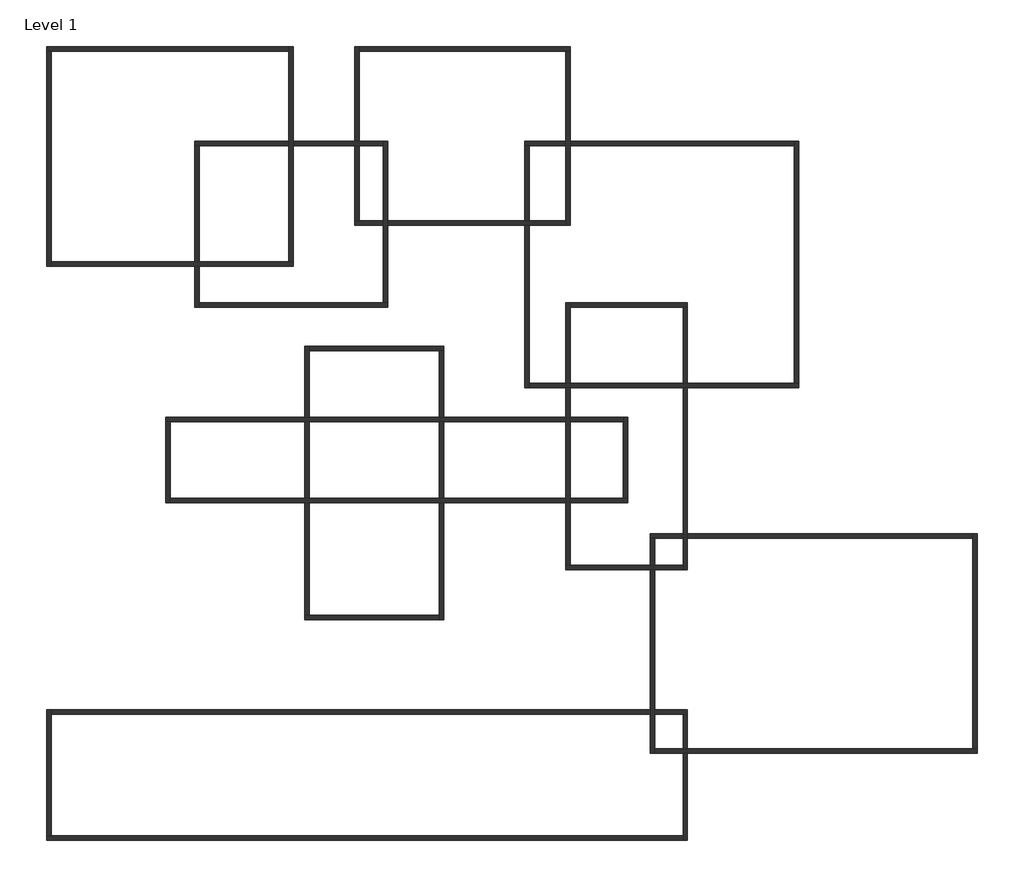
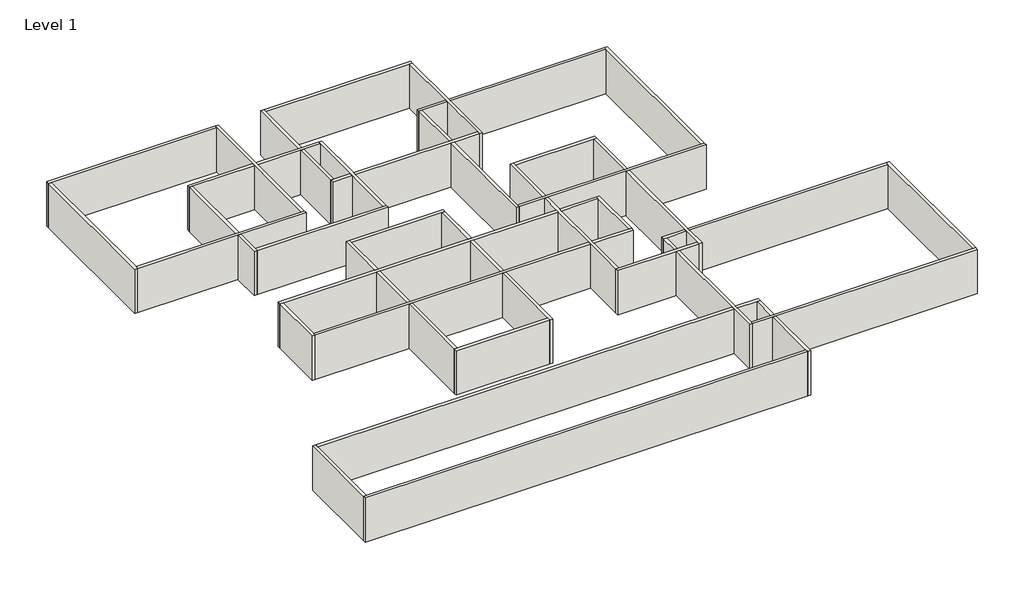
# One storey: 36 walls.
"""IFC4 building model written with IfcOpenShell, lengths in millimetres."""

from ifc_helpers import new_model, si_unit, origin, place, context, project, spatial, faceted_brep, element, save

model = new_model("IFC4")

# Units and contexts
model_context = context("Model", 3, world=origin())
ifc_project = project(units=[si_unit("LENGTHUNIT", "METRE", prefix="MILLI")], contexts=[model_context])

# Site, building, storey
site = spatial("IfcSite", under=ifc_project)
building = spatial("IfcBuilding", under=site)
storey = spatial("IfcBuildingStorey", under=building, Name="Level 1", Elevation=0.0)

# Walls
placement = place(None, origin())
element("IfcWall", 1, ObjectType="Generic - 8\"", at=placement, inside=storey, context=model_context, shape_type="Brep", body=[
    faceted_brep([(-6320.9988868, 19584.5440168, 0.0), (-6117.7988868, 19584.5440168, 0.0), (4651.8011132, 19584.5440168, 0.0), (4651.8011132, 19584.5440168, 3048.0), (-6117.7988868, 19584.5440168, 3048.0), (-6320.9988868, 19584.5440168, 3048.0), (-6320.9988868, 19787.7440168, 0.0), (-6320.9988868, 19787.7440168, 3048.0), (4651.8011132, 19787.7440168, 3048.0), (4651.8011132, 19787.7440168, 0.0)], [[[0, 1, 2, 3, 4, 5]], [[6, 7, 8, 9]], [[2, 1, 0, 6, 9]], [[5, 4, 3, 8, 7]], [[0, 5, 7, 6]], [[3, 2, 9, 8]]]),
])
element("IfcWall", 2, ObjectType="Generic - 8\"", at=placement, inside=storey, context=model_context, shape_type="Brep", body=[
    faceted_brep([(-6117.7988868, 9830.9440168, 0.0), (-6117.7988868, 10034.1440168, 0.0), (-6117.7988868, 19584.5440168, 0.0), (-6117.7988868, 19584.5440168, 3048.0), (-6117.7988868, 10034.1440168, 3048.0), (-6117.7988868, 9830.9440168, 3048.0), (-6320.9988868, 9830.9440168, 0.0), (-6320.9988868, 9830.9440168, 3048.0), (-6320.9988868, 19584.5440168, 3048.0), (-6320.9988868, 19584.5440168, 0.0)], [[[0, 1, 2, 3, 4, 5]], [[6, 7, 8, 9]], [[2, 1, 0, 6, 9]], [[5, 4, 3, 8, 7]], [[0, 5, 7, 6]], [[3, 2, 9, 8]]]),
])
element("IfcWall", 3, ObjectType="Generic - 8\"", at=placement, inside=storey, context=model_context, shape_type="Brep", body=[
    faceted_brep([(4855.0011132, 10034.1440168, 0.0), (4651.8011132, 10034.1440168, 0.0), (596.1923999, 10034.1440168, 0.0), (392.9923999, 10034.1440168, 0.0), (-6117.7988868, 10034.1440168, 0.0), (-6117.7988868, 10034.1440168, 3048.0), (392.9923999, 10034.1440168, 3048.0), (596.1923999, 10034.1440168, 3048.0), (4651.8011132, 10034.1440168, 3048.0), (4855.0011132, 10034.1440168, 3048.0), (4855.0011132, 9830.9440168, 0.0), (4855.0011132, 9830.9440168, 3048.0), (596.1923999, 9830.9440168, 3048.0), (392.9923999, 9830.9440168, 3048.0), (-6117.7988868, 9830.9440168, 3048.0), (-6117.7988868, 9830.9440168, 0.0), (392.9923999, 9830.9440168, 0.0), (596.1923999, 9830.9440168, 0.0)], [[[0, 1, 2, 3, 4, 5, 6, 7, 8, 9]], [[10, 11, 12, 13, 14, 15, 16, 17]], [[4, 3, 2, 1, 0, 10, 17, 16, 15]], [[9, 8, 7, 6, 5, 14, 13, 12, 11]], [[0, 9, 11, 10]], [[5, 4, 15, 14]]]),
])
element("IfcWall", 4, ObjectType="Generic - 8\"", at=placement, inside=storey, context=model_context, shape_type="Brep", body=[
    faceted_brep([(4651.8011132, 19787.7440168, 0.0), (4651.8011132, 19584.5440168, 0.0), (4651.8011132, 15503.5781482, 0.0), (4651.8011132, 15300.3781482, 0.0), (4651.8011132, 10034.1440168, 0.0), (4651.8011132, 10034.1440168, 3048.0), (4651.8011132, 15300.3781482, 3048.0), (4651.8011132, 15503.5781482, 3048.0), (4651.8011132, 19584.5440168, 3048.0), (4651.8011132, 19787.7440168, 3048.0), (4855.0011132, 19787.7440168, 0.0), (4855.0011132, 19787.7440168, 3048.0), (4855.0011132, 15503.5781482, 3048.0), (4855.0011132, 15300.3781482, 3048.0), (4855.0011132, 10034.1440168, 3048.0), (4855.0011132, 10034.1440168, 0.0), (4855.0011132, 15300.3781482, 0.0), (4855.0011132, 15503.5781482, 0.0)], [[[0, 1, 2, 3, 4, 5, 6, 7, 8, 9]], [[10, 11, 12, 13, 14, 15, 16, 17]], [[4, 3, 2, 1, 0, 10, 17, 16, 15]], [[9, 8, 7, 6, 5, 14, 13, 12, 11]], [[0, 9, 11, 10]], [[5, 4, 15, 14]]]),
])
element("IfcWall", 5, ObjectType="Generic - 8\"", at=placement, inside=storey, context=model_context, shape_type="Brep", body=[
    faceted_brep([(8927.3923999, 15300.3781482, 0.0), (8927.3923999, 15300.3781482, 3048.0), (7853.6972669, 15300.3781482, 3048.0), (7650.4972669, 15300.3781482, 3048.0), (4855.0011132, 15300.3781482, 3048.0), (4855.0011132, 15300.3781482, 0.0), (7650.4972669, 15300.3781482, 0.0), (7853.6972669, 15300.3781482, 0.0), (8927.3923999, 15503.5781482, 3048.0), (8927.3923999, 15503.5781482, 0.0), (7853.6972669, 15503.5781482, 0.0), (7650.4972669, 15503.5781482, 0.0), (4855.0011132, 15503.5781482, 0.0), (4855.0011132, 15503.5781482, 3048.0), (7650.4972669, 15503.5781482, 3048.0), (7853.6972669, 15503.5781482, 3048.0)], [[[0, 1, 2, 3, 4, 5, 6, 7]], [[8, 9, 10, 11, 12, 13, 14, 15]], [[9, 0, 7, 6, 5, 12, 11, 10]], [[1, 8, 15, 14, 13, 4, 3, 2]], [[1, 0, 9, 8]], [[5, 4, 13, 12]]]),
    faceted_brep([(392.9923999, 15300.3781482, 3048.0), (392.9923999, 15300.3781482, 0.0), (596.1923999, 15300.3781482, 0.0), (4651.8011132, 15300.3781482, 0.0), (4651.8011132, 15300.3781482, 3048.0), (596.1923999, 15300.3781482, 3048.0), (392.9923999, 15503.5781482, 0.0), (392.9923999, 15503.5781482, 3048.0), (4651.8011132, 15503.5781482, 3048.0), (4651.8011132, 15503.5781482, 0.0)], [[[0, 1, 2, 3, 4, 5]], [[6, 7, 8, 9]], [[1, 6, 9, 3, 2]], [[7, 0, 5, 4, 8]], [[1, 0, 7, 6]], [[4, 3, 9, 8]]]),
])
element("IfcWall", 6, ObjectType="Generic - 8\"", at=placement, inside=storey, context=model_context, shape_type="Brep", body=[
    faceted_brep([(596.1923999, 15300.3781482, 0.0), (596.1923999, 15300.3781482, 3048.0), (596.1923999, 10034.1440168, 3048.0), (596.1923999, 10034.1440168, 0.0), (392.9923999, 15300.3781482, 3048.0), (392.9923999, 15300.3781482, 0.0), (392.9923999, 10034.1440168, 0.0), (392.9923999, 10034.1440168, 3048.0)], [[[0, 1, 2, 3]], [[4, 5, 6, 7]], [[5, 0, 3, 6]], [[1, 4, 7, 2]], [[1, 0, 5, 4]], [[3, 2, 7, 6]]]),
    faceted_brep([(596.1923999, 7985.1781482, 3048.0), (596.1923999, 7985.1781482, 0.0), (596.1923999, 8188.3781482, 0.0), (596.1923999, 9830.9440168, 0.0), (596.1923999, 9830.9440168, 3048.0), (596.1923999, 8188.3781482, 3048.0), (392.9923999, 7985.1781482, 0.0), (392.9923999, 7985.1781482, 3048.0), (392.9923999, 9830.9440168, 3048.0), (392.9923999, 9830.9440168, 0.0)], [[[0, 1, 2, 3, 4, 5]], [[6, 7, 8, 9]], [[1, 6, 9, 3, 2]], [[7, 0, 5, 4, 8]], [[1, 0, 7, 6]], [[4, 3, 9, 8]]]),
])
element("IfcWall", 7, ObjectType="Generic - 8\"", at=placement, inside=storey, context=model_context, shape_type="Brep", body=[
    faceted_brep([(9130.5923999, 8188.3781482, 0.0), (8927.3923999, 8188.3781482, 0.0), (596.1923999, 8188.3781482, 0.0), (596.1923999, 8188.3781482, 3048.0), (8927.3923999, 8188.3781482, 3048.0), (9130.5923999, 8188.3781482, 3048.0), (9130.5923999, 7985.1781482, 0.0), (9130.5923999, 7985.1781482, 3048.0), (596.1923999, 7985.1781482, 3048.0), (596.1923999, 7985.1781482, 0.0)], [[[0, 1, 2, 3, 4, 5]], [[6, 7, 8, 9]], [[2, 1, 0, 6, 9]], [[5, 4, 3, 8, 7]], [[0, 5, 7, 6]], [[3, 2, 9, 8]]]),
])
element("IfcWall", 8, ObjectType="Generic - 8\"", at=placement, inside=storey, context=model_context, shape_type="Brep", body=[
    faceted_brep([(8927.3923999, 15503.5781482, 0.0), (8927.3923999, 15300.3781482, 0.0), (8927.3923999, 11890.8114082, 0.0), (8927.3923999, 11687.6114082, 0.0), (8927.3923999, 8188.3781482, 0.0), (8927.3923999, 8188.3781482, 3048.0), (8927.3923999, 11687.6114082, 3048.0), (8927.3923999, 11890.8114082, 3048.0), (8927.3923999, 15300.3781482, 3048.0), (8927.3923999, 15503.5781482, 3048.0), (9130.5923999, 15503.5781482, 0.0), (9130.5923999, 15503.5781482, 3048.0), (9130.5923999, 11890.8114082, 3048.0), (9130.5923999, 11687.6114082, 3048.0), (9130.5923999, 8188.3781482, 3048.0), (9130.5923999, 8188.3781482, 0.0), (9130.5923999, 11687.6114082, 0.0), (9130.5923999, 11890.8114082, 0.0)], [[[0, 1, 2, 3, 4, 5, 6, 7, 8, 9]], [[10, 11, 12, 13, 14, 15, 16, 17]], [[4, 3, 2, 1, 0, 10, 17, 16, 15]], [[9, 8, 7, 6, 5, 14, 13, 12, 11]], [[0, 9, 11, 10]], [[5, 4, 15, 14]]]),
])
element("IfcWall", 9, ObjectType="Generic - 8\"", at=placement, inside=storey, context=model_context, shape_type="Brep", body=[
    faceted_brep([(7650.4972669, 11687.6114082, 3048.0), (7650.4972669, 11687.6114082, 0.0), (8927.3923999, 11687.6114082, 0.0), (8927.3923999, 11687.6114082, 3048.0), (7650.4972669, 11890.8114082, 0.0), (7650.4972669, 11890.8114082, 3048.0), (7853.6972669, 11890.8114082, 3048.0), (8927.3923999, 11890.8114082, 3048.0), (8927.3923999, 11890.8114082, 0.0), (7853.6972669, 11890.8114082, 0.0)], [[[0, 1, 2, 3]], [[4, 5, 6, 7, 8, 9]], [[1, 4, 9, 8, 2]], [[5, 0, 3, 7, 6]], [[1, 0, 5, 4]], [[3, 2, 8, 7]]]),
    faceted_brep([(17209.9420036, 11687.6114082, 0.0), (17209.9420036, 11687.6114082, 3048.0), (15558.801553, 11687.6114082, 3048.0), (15355.601553, 11687.6114082, 3048.0), (9130.5923999, 11687.6114082, 3048.0), (9130.5923999, 11687.6114082, 0.0), (15355.601553, 11687.6114082, 0.0), (15558.801553, 11687.6114082, 0.0), (17209.9420036, 11890.8114082, 3048.0), (17209.9420036, 11890.8114082, 0.0), (15558.801553, 11890.8114082, 0.0), (15355.601553, 11890.8114082, 0.0), (9130.5923999, 11890.8114082, 0.0), (9130.5923999, 11890.8114082, 3048.0), (15355.601553, 11890.8114082, 3048.0), (15558.801553, 11890.8114082, 3048.0)], [[[0, 1, 2, 3, 4, 5, 6, 7]], [[8, 9, 10, 11, 12, 13, 14, 15]], [[9, 0, 7, 6, 5, 12, 11, 10]], [[1, 8, 15, 14, 13, 4, 3, 2]], [[1, 0, 9, 8]], [[5, 4, 13, 12]]]),
])
element("IfcWall", 10, ObjectType="Generic - 8\"", at=placement, inside=storey, context=model_context, shape_type="Brep", body=[
    faceted_brep([(7650.4972669, 19787.7440168, 3048.0), (7650.4972669, 19787.7440168, 0.0), (7650.4972669, 15503.5781482, 0.0), (7650.4972669, 15503.5781482, 3048.0), (7853.6972669, 19787.7440168, 0.0), (7853.6972669, 19787.7440168, 3048.0), (7853.6972669, 19584.5440168, 3048.0), (7853.6972669, 15503.5781482, 3048.0), (7853.6972669, 15503.5781482, 0.0), (7853.6972669, 19584.5440168, 0.0)], [[[0, 1, 2, 3]], [[4, 5, 6, 7, 8, 9]], [[1, 4, 9, 8, 2]], [[5, 0, 3, 7, 6]], [[1, 0, 5, 4]], [[3, 2, 8, 7]]]),
    faceted_brep([(7650.4972669, 11890.8114082, 0.0), (7650.4972669, 11890.8114082, 3048.0), (7650.4972669, 15300.3781482, 3048.0), (7650.4972669, 15300.3781482, 0.0), (7853.6972669, 11890.8114082, 3048.0), (7853.6972669, 11890.8114082, 0.0), (7853.6972669, 15300.3781482, 0.0), (7853.6972669, 15300.3781482, 3048.0)], [[[0, 1, 2, 3]], [[4, 5, 6, 7]], [[5, 0, 3, 6]], [[1, 4, 7, 2]], [[1, 0, 5, 4]], [[3, 2, 7, 6]]]),
])
element("IfcWall", 11, ObjectType="Generic - 8\"", at=placement, inside=storey, context=model_context, shape_type="Brep", body=[
    faceted_brep([(17413.1420036, 19787.7440168, 0.0), (7853.6972669, 19787.7440168, 0.0), (7853.6972669, 19787.7440168, 3048.0), (17413.1420036, 19787.7440168, 3048.0), (17413.1420036, 19584.5440168, 0.0), (17413.1420036, 19584.5440168, 3048.0), (17209.9420036, 19584.5440168, 3048.0), (7853.6972669, 19584.5440168, 3048.0), (7853.6972669, 19584.5440168, 0.0), (17209.9420036, 19584.5440168, 0.0)], [[[0, 1, 2, 3]], [[4, 5, 6, 7, 8, 9]], [[1, 0, 4, 9, 8]], [[3, 2, 7, 6, 5]], [[0, 3, 5, 4]], [[2, 1, 8, 7]]]),
])
element("IfcWall", 12, ObjectType="Generic - 8\"", at=placement, inside=storey, context=model_context, shape_type="Brep", body=[
    faceted_brep([(17413.1420036, 11687.6114082, 0.0), (17413.1420036, 15300.3781482, 0.0), (17413.1420036, 15503.5781482, 0.0), (17413.1420036, 19584.5440168, 0.0), (17413.1420036, 19584.5440168, 3048.0), (17413.1420036, 15503.5781482, 3048.0), (17413.1420036, 15300.3781482, 3048.0), (17413.1420036, 11687.6114082, 3048.0), (17209.9420036, 11687.6114082, 0.0), (17209.9420036, 11687.6114082, 3048.0), (17209.9420036, 11890.8114082, 3048.0), (17209.9420036, 15300.3781482, 3048.0), (17209.9420036, 15503.5781482, 3048.0), (17209.9420036, 19584.5440168, 3048.0), (17209.9420036, 19584.5440168, 0.0), (17209.9420036, 15503.5781482, 0.0), (17209.9420036, 15300.3781482, 0.0), (17209.9420036, 11890.8114082, 0.0)], [[[0, 1, 2, 3, 4, 5, 6, 7]], [[8, 9, 10, 11, 12, 13, 14, 15, 16, 17]], [[3, 2, 1, 0, 8, 17, 16, 15, 14]], [[7, 6, 5, 4, 13, 12, 11, 10, 9]], [[0, 7, 9, 8]], [[4, 3, 14, 13]]]),
])
element("IfcWall", 13, ObjectType="Generic - 8\"", at=placement, inside=storey, context=model_context, shape_type="Brep", body=[
    faceted_brep([(27547.601553, 15300.3781482, 0.0), (27547.601553, 15300.3781482, 3048.0), (17413.1420036, 15300.3781482, 3048.0), (17413.1420036, 15300.3781482, 0.0), (27547.601553, 15503.5781482, 3048.0), (27547.601553, 15503.5781482, 0.0), (17413.1420036, 15503.5781482, 0.0), (17413.1420036, 15503.5781482, 3048.0)], [[[0, 1, 2, 3]], [[4, 5, 6, 7]], [[5, 0, 3, 6]], [[1, 4, 7, 2]], [[1, 0, 5, 4]], [[3, 2, 7, 6]]]),
    faceted_brep([(15355.601553, 15300.3781482, 3048.0), (15355.601553, 15300.3781482, 0.0), (15558.801553, 15300.3781482, 0.0), (17209.9420036, 15300.3781482, 0.0), (17209.9420036, 15300.3781482, 3048.0), (15558.801553, 15300.3781482, 3048.0), (15355.601553, 15503.5781482, 0.0), (15355.601553, 15503.5781482, 3048.0), (17209.9420036, 15503.5781482, 3048.0), (17209.9420036, 15503.5781482, 0.0)], [[[0, 1, 2, 3, 4, 5]], [[6, 7, 8, 9]], [[1, 6, 9, 3, 2]], [[7, 0, 5, 4, 8]], [[1, 0, 7, 6]], [[4, 3, 9, 8]]]),
])
element("IfcWall", 14, ObjectType="Generic - 8\"", at=placement, inside=storey, context=model_context, shape_type="Brep", body=[
    faceted_brep([(15558.801553, 15300.3781482, 0.0), (15558.801553, 15300.3781482, 3048.0), (15558.801553, 11890.8114082, 3048.0), (15558.801553, 11890.8114082, 0.0), (15355.601553, 15300.3781482, 3048.0), (15355.601553, 15300.3781482, 0.0), (15355.601553, 11890.8114082, 0.0), (15355.601553, 11890.8114082, 3048.0)], [[[0, 1, 2, 3]], [[4, 5, 6, 7]], [[5, 0, 3, 6]], [[1, 4, 7, 2]], [[1, 0, 5, 4]], [[3, 2, 7, 6]]]),
    faceted_brep([(15558.801553, 4327.5781482, 3048.0), (15558.801553, 4327.5781482, 0.0), (15558.801553, 4530.7781482, 0.0), (15558.801553, 11687.6114082, 0.0), (15558.801553, 11687.6114082, 3048.0), (15558.801553, 4530.7781482, 3048.0), (15355.601553, 4327.5781482, 0.0), (15355.601553, 4327.5781482, 3048.0), (15355.601553, 11687.6114082, 3048.0), (15355.601553, 11687.6114082, 0.0)], [[[0, 1, 2, 3, 4, 5]], [[6, 7, 8, 9]], [[1, 6, 9, 3, 2]], [[7, 0, 5, 4, 8]], [[1, 0, 7, 6]], [[4, 3, 9, 8]]]),
])
element("IfcWall", 15, ObjectType="Generic - 8\"", at=placement, inside=storey, context=model_context, shape_type="Brep", body=[
    faceted_brep([(27750.801553, 4530.7781482, 0.0), (27547.601553, 4530.7781482, 0.0), (22720.3922588, 4530.7781482, 0.0), (22517.1922588, 4530.7781482, 0.0), (17413.1420036, 4530.7781482, 0.0), (17209.9420036, 4530.7781482, 0.0), (15558.801553, 4530.7781482, 0.0), (15558.801553, 4530.7781482, 3048.0), (17209.9420036, 4530.7781482, 3048.0), (17413.1420036, 4530.7781482, 3048.0), (22517.1922588, 4530.7781482, 3048.0), (22720.3922588, 4530.7781482, 3048.0), (27547.601553, 4530.7781482, 3048.0), (27750.801553, 4530.7781482, 3048.0), (27750.801553, 4327.5781482, 0.0), (27750.801553, 4327.5781482, 3048.0), (22720.3922588, 4327.5781482, 3048.0), (22517.1922588, 4327.5781482, 3048.0), (17413.1420036, 4327.5781482, 3048.0), (17209.9420036, 4327.5781482, 3048.0), (15558.801553, 4327.5781482, 3048.0), (15558.801553, 4327.5781482, 0.0), (17209.9420036, 4327.5781482, 0.0), (17413.1420036, 4327.5781482, 0.0), (22517.1922588, 4327.5781482, 0.0), (22720.3922588, 4327.5781482, 0.0)], [[[0, 1, 2, 3, 4, 5, 6, 7, 8, 9, 10, 11, 12, 13]], [[14, 15, 16, 17, 18, 19, 20, 21, 22, 23, 24, 25]], [[6, 5, 4, 3, 2, 1, 0, 14, 25, 24, 23, 22, 21]], [[13, 12, 11, 10, 9, 8, 7, 20, 19, 18, 17, 16, 15]], [[0, 13, 15, 14]], [[7, 6, 21, 20]]]),
])
element("IfcWall", 16, ObjectType="Generic - 8\"", at=placement, inside=storey, context=model_context, shape_type="Brep", body=[
    faceted_brep([(27547.601553, 15503.5781482, 0.0), (27547.601553, 15300.3781482, 0.0), (27547.601553, 4530.7781482, 0.0), (27547.601553, 4530.7781482, 3048.0), (27547.601553, 15300.3781482, 3048.0), (27547.601553, 15503.5781482, 3048.0), (27750.801553, 15503.5781482, 0.0), (27750.801553, 15503.5781482, 3048.0), (27750.801553, 4530.7781482, 3048.0), (27750.801553, 4530.7781482, 0.0)], [[[0, 1, 2, 3, 4, 5]], [[6, 7, 8, 9]], [[2, 1, 0, 6, 9]], [[5, 4, 3, 8, 7]], [[0, 5, 7, 6]], [[3, 2, 9, 8]]]),
])
element("IfcWall", 17, ObjectType="Generic - 8\"", at=placement, inside=storey, context=model_context, shape_type="Brep", body=[
    faceted_brep([(22720.3922588, 8188.3781482, 0.0), (17413.1420036, 8188.3781482, 0.0), (17413.1420036, 8188.3781482, 3048.0), (22720.3922588, 8188.3781482, 3048.0), (22720.3922588, 7985.1781482, 0.0), (22720.3922588, 7985.1781482, 3048.0), (22517.1922588, 7985.1781482, 3048.0), (17413.1420036, 7985.1781482, 3048.0), (17413.1420036, 7985.1781482, 0.0), (22517.1922588, 7985.1781482, 0.0)], [[[0, 1, 2, 3]], [[4, 5, 6, 7, 8, 9]], [[1, 0, 4, 9, 8]], [[3, 2, 7, 6, 5]], [[0, 3, 5, 4]], [[2, 1, 8, 7]]]),
])
element("IfcWall", 18, ObjectType="Generic - 8\"", at=placement, inside=storey, context=model_context, shape_type="Brep", body=[
    faceted_brep([(22720.3922588, -3914.4254865, 3048.0), (22720.3922588, -3914.4254865, 0.0), (22720.3922588, -2489.7949832, 0.0), (22720.3922588, -2286.5949832, 0.0), (22720.3922588, 4327.5781482, 0.0), (22720.3922588, 4327.5781482, 3048.0), (22720.3922588, -2286.5949832, 3048.0), (22720.3922588, -2489.7949832, 3048.0), (22517.1922588, -3914.4254865, 0.0), (22517.1922588, -3914.4254865, 3048.0), (22517.1922588, -3711.2254865, 3048.0), (22517.1922588, -2489.7949832, 3048.0), (22517.1922588, -2286.5949832, 3048.0), (22517.1922588, 4327.5781482, 3048.0), (22517.1922588, 4327.5781482, 0.0), (22517.1922588, -2286.5949832, 0.0), (22517.1922588, -2489.7949832, 0.0), (22517.1922588, -3711.2254865, 0.0)], [[[0, 1, 2, 3, 4, 5, 6, 7]], [[8, 9, 10, 11, 12, 13, 14, 15, 16, 17]], [[1, 8, 17, 16, 15, 14, 4, 3, 2]], [[9, 0, 7, 6, 5, 13, 12, 11, 10]], [[1, 0, 9, 8]], [[5, 4, 14, 13]]]),
    faceted_brep([(22720.3922588, 7985.1781482, 0.0), (22720.3922588, 7985.1781482, 3048.0), (22720.3922588, 4530.7781482, 3048.0), (22720.3922588, 4530.7781482, 0.0), (22517.1922588, 7985.1781482, 3048.0), (22517.1922588, 7985.1781482, 0.0), (22517.1922588, 4530.7781482, 0.0), (22517.1922588, 4530.7781482, 3048.0)], [[[0, 1, 2, 3]], [[4, 5, 6, 7]], [[5, 0, 3, 6]], [[1, 4, 7, 2]], [[1, 0, 5, 4]], [[3, 2, 7, 6]]]),
])
element("IfcWall", 19, ObjectType="Generic - 8\"", at=placement, inside=storey, context=model_context, shape_type="Brep", body=[
    faceted_brep([(17209.9420036, -3914.4254865, 0.0), (21025.2344867, -3914.4254865, 0.0), (21228.4344867, -3914.4254865, 0.0), (22517.1922588, -3914.4254865, 0.0), (22517.1922588, -3914.4254865, 3048.0), (21228.4344867, -3914.4254865, 3048.0), (21025.2344867, -3914.4254865, 3048.0), (17209.9420036, -3914.4254865, 3048.0), (17209.9420036, -3711.2254865, 0.0), (17209.9420036, -3711.2254865, 3048.0), (17413.1420036, -3711.2254865, 3048.0), (21025.2344867, -3711.2254865, 3048.0), (21228.4344867, -3711.2254865, 3048.0), (22517.1922588, -3711.2254865, 3048.0), (22517.1922588, -3711.2254865, 0.0), (21228.4344867, -3711.2254865, 0.0), (21025.2344867, -3711.2254865, 0.0), (17413.1420036, -3711.2254865, 0.0)], [[[0, 1, 2, 3, 4, 5, 6, 7]], [[8, 9, 10, 11, 12, 13, 14, 15, 16, 17]], [[3, 2, 1, 0, 8, 17, 16, 15, 14]], [[7, 6, 5, 4, 13, 12, 11, 10, 9]], [[0, 7, 9, 8]], [[4, 3, 14, 13]]]),
])
element("IfcWall", 20, ObjectType="Generic - 8\"", at=placement, inside=storey, context=model_context, shape_type="Brep", body=[
    faceted_brep([(17209.9420036, 8188.3781482, 3048.0), (17209.9420036, 8188.3781482, 0.0), (17209.9420036, 4530.7781482, 0.0), (17209.9420036, 4530.7781482, 3048.0), (17413.1420036, 8188.3781482, 0.0), (17413.1420036, 8188.3781482, 3048.0), (17413.1420036, 7985.1781482, 3048.0), (17413.1420036, 4530.7781482, 3048.0), (17413.1420036, 4530.7781482, 0.0), (17413.1420036, 7985.1781482, 0.0)], [[[0, 1, 2, 3]], [[4, 5, 6, 7, 8, 9]], [[1, 4, 9, 8, 2]], [[5, 0, 3, 7, 6]], [[1, 0, 5, 4]], [[3, 2, 8, 7]]]),
    faceted_brep([(17209.9420036, -3711.2254865, 0.0), (17209.9420036, -3711.2254865, 3048.0), (17209.9420036, -877.143714, 3048.0), (17209.9420036, -673.943714, 3048.0), (17209.9420036, 2780.456286, 3048.0), (17209.9420036, 2983.656286, 3048.0), (17209.9420036, 4327.5781482, 3048.0), (17209.9420036, 4327.5781482, 0.0), (17209.9420036, 2983.656286, 0.0), (17209.9420036, 2780.456286, 0.0), (17209.9420036, -673.943714, 0.0), (17209.9420036, -877.143714, 0.0), (17413.1420036, -3711.2254865, 3048.0), (17413.1420036, -3711.2254865, 0.0), (17413.1420036, -877.143714, 0.0), (17413.1420036, -673.943714, 0.0), (17413.1420036, 2780.456286, 0.0), (17413.1420036, 2983.656286, 0.0), (17413.1420036, 4327.5781482, 0.0), (17413.1420036, 4327.5781482, 3048.0), (17413.1420036, 2983.656286, 3048.0), (17413.1420036, 2780.456286, 3048.0), (17413.1420036, -673.943714, 3048.0), (17413.1420036, -877.143714, 3048.0)], [[[0, 1, 2, 3, 4, 5, 6, 7, 8, 9, 10, 11]], [[12, 13, 14, 15, 16, 17, 18, 19, 20, 21, 22, 23]], [[13, 0, 11, 10, 9, 8, 7, 18, 17, 16, 15, 14]], [[1, 12, 23, 22, 21, 20, 19, 6, 5, 4, 3, 2]], [[1, 0, 13, 12]], [[7, 6, 19, 18]]]),
])
element("IfcWall", 21, ObjectType="Generic - 8\"", at=placement, inside=storey, context=model_context, shape_type="Brep", body=[
    faceted_brep([(-723.5756429, -673.943714, 0.0), (-723.5756429, -673.943714, 3048.0), (5380.5287843, -673.943714, 3048.0), (5583.7287843, -673.943714, 3048.0), (11476.5287843, -673.943714, 3048.0), (11679.7287843, -673.943714, 3048.0), (17209.9420036, -673.943714, 3048.0), (17209.9420036, -673.943714, 0.0), (11679.7287843, -673.943714, 0.0), (11476.5287843, -673.943714, 0.0), (5583.7287843, -673.943714, 0.0), (5380.5287843, -673.943714, 0.0), (-723.5756429, -877.143714, 3048.0), (-723.5756429, -877.143714, 0.0), (5380.5287843, -877.143714, 0.0), (5583.7287843, -877.143714, 0.0), (11476.5287843, -877.143714, 0.0), (11679.7287843, -877.143714, 0.0), (17209.9420036, -877.143714, 0.0), (17209.9420036, -877.143714, 3048.0), (11679.7287843, -877.143714, 3048.0), (11476.5287843, -877.143714, 3048.0), (5583.7287843, -877.143714, 3048.0), (5380.5287843, -877.143714, 3048.0)], [[[0, 1, 2, 3, 4, 5, 6, 7, 8, 9, 10, 11]], [[12, 13, 14, 15, 16, 17, 18, 19, 20, 21, 22, 23]], [[13, 0, 11, 10, 9, 8, 7, 18, 17, 16, 15, 14]], [[1, 12, 23, 22, 21, 20, 19, 6, 5, 4, 3, 2]], [[1, 0, 13, 12]], [[7, 6, 19, 18]]]),
    faceted_brep([(20002.8243571, -673.943714, 3048.0), (20002.8243571, -673.943714, 0.0), (19799.6243571, -673.943714, 0.0), (17413.1420036, -673.943714, 0.0), (17413.1420036, -673.943714, 3048.0), (19799.6243571, -673.943714, 3048.0), (20002.8243571, -877.143714, 0.0), (20002.8243571, -877.143714, 3048.0), (17413.1420036, -877.143714, 3048.0), (17413.1420036, -877.143714, 0.0)], [[[0, 1, 2, 3, 4, 5]], [[6, 7, 8, 9]], [[1, 6, 9, 3, 2]], [[7, 0, 5, 4, 8]], [[1, 0, 7, 6]], [[4, 3, 9, 8]]]),
])
element("IfcWall", 22, ObjectType="Generic - 8\"", at=placement, inside=storey, context=model_context, shape_type="Brep", body=[
    faceted_brep([(19799.6243571, 2983.656286, 0.0), (19799.6243571, 2780.456286, 0.0), (19799.6243571, -673.943714, 0.0), (19799.6243571, -673.943714, 3048.0), (19799.6243571, 2780.456286, 3048.0), (19799.6243571, 2983.656286, 3048.0), (20002.8243571, 2983.656286, 0.0), (20002.8243571, 2983.656286, 3048.0), (20002.8243571, -673.943714, 3048.0), (20002.8243571, -673.943714, 0.0)], [[[0, 1, 2, 3, 4, 5]], [[6, 7, 8, 9]], [[2, 1, 0, 6, 9]], [[5, 4, 3, 8, 7]], [[0, 5, 7, 6]], [[3, 2, 9, 8]]]),
])
element("IfcWall", 23, ObjectType="Generic - 8\"", at=placement, inside=storey, context=model_context, shape_type="Brep", body=[
    faceted_brep([(19799.6243571, 2780.456286, 0.0), (19799.6243571, 2780.456286, 3048.0), (17413.1420036, 2780.456286, 3048.0), (17413.1420036, 2780.456286, 0.0), (19799.6243571, 2983.656286, 3048.0), (19799.6243571, 2983.656286, 0.0), (17413.1420036, 2983.656286, 0.0), (17413.1420036, 2983.656286, 3048.0)], [[[0, 1, 2, 3]], [[4, 5, 6, 7]], [[5, 0, 3, 6]], [[1, 4, 7, 2]], [[1, 0, 5, 4]], [[3, 2, 7, 6]]]),
    faceted_brep([(-926.7756429, 2780.456286, 3048.0), (-926.7756429, 2780.456286, 0.0), (-723.5756429, 2780.456286, 0.0), (5380.5287843, 2780.456286, 0.0), (5583.7287843, 2780.456286, 0.0), (11476.5287843, 2780.456286, 0.0), (11679.7287843, 2780.456286, 0.0), (17209.9420036, 2780.456286, 0.0), (17209.9420036, 2780.456286, 3048.0), (11679.7287843, 2780.456286, 3048.0), (11476.5287843, 2780.456286, 3048.0), (5583.7287843, 2780.456286, 3048.0), (5380.5287843, 2780.456286, 3048.0), (-723.5756429, 2780.456286, 3048.0), (-926.7756429, 2983.656286, 0.0), (-926.7756429, 2983.656286, 3048.0), (5380.5287843, 2983.656286, 3048.0), (5583.7287843, 2983.656286, 3048.0), (11476.5287843, 2983.656286, 3048.0), (11679.7287843, 2983.656286, 3048.0), (17209.9420036, 2983.656286, 3048.0), (17209.9420036, 2983.656286, 0.0), (11679.7287843, 2983.656286, 0.0), (11476.5287843, 2983.656286, 0.0), (5583.7287843, 2983.656286, 0.0), (5380.5287843, 2983.656286, 0.0)], [[[0, 1, 2, 3, 4, 5, 6, 7, 8, 9, 10, 11, 12, 13]], [[14, 15, 16, 17, 18, 19, 20, 21, 22, 23, 24, 25]], [[1, 14, 25, 24, 23, 22, 21, 7, 6, 5, 4, 3, 2]], [[15, 0, 13, 12, 11, 10, 9, 8, 20, 19, 18, 17, 16]], [[1, 0, 15, 14]], [[8, 7, 21, 20]]]),
])
element("IfcWall", 24, ObjectType="Generic - 8\"", at=placement, inside=storey, context=model_context, shape_type="Brep", body=[
    faceted_brep([(-723.5756429, -877.143714, 0.0), (-723.5756429, -673.943714, 0.0), (-723.5756429, 2780.456286, 0.0), (-723.5756429, 2780.456286, 3048.0), (-723.5756429, -673.943714, 3048.0), (-723.5756429, -877.143714, 3048.0), (-926.7756429, -877.143714, 0.0), (-926.7756429, -877.143714, 3048.0), (-926.7756429, 2780.456286, 3048.0), (-926.7756429, 2780.456286, 0.0)], [[[0, 1, 2, 3, 4, 5]], [[6, 7, 8, 9]], [[2, 1, 0, 6, 9]], [[5, 4, 3, 8, 7]], [[0, 5, 7, 6]], [[3, 2, 9, 8]]]),
])
element("IfcWall", 25, ObjectType="Generic - 8\"", at=placement, inside=storey, context=model_context, shape_type="Brep", body=[
    faceted_brep([(5380.5287843, -6184.3939691, 0.0), (11476.5287843, -6184.3939691, 0.0), (11476.5287843, -6184.3939691, 3048.0), (5380.5287843, -6184.3939691, 3048.0), (5380.5287843, -5981.1939691, 0.0), (5380.5287843, -5981.1939691, 3048.0), (5583.7287843, -5981.1939691, 3048.0), (11476.5287843, -5981.1939691, 3048.0), (11476.5287843, -5981.1939691, 0.0), (5583.7287843, -5981.1939691, 0.0)], [[[0, 1, 2, 3]], [[4, 5, 6, 7, 8, 9]], [[1, 0, 4, 9, 8]], [[3, 2, 7, 6, 5]], [[0, 3, 5, 4]], [[2, 1, 8, 7]]]),
])
element("IfcWall", 26, ObjectType="Generic - 8\"", at=placement, inside=storey, context=model_context, shape_type="Brep", body=[
    faceted_brep([(5380.5287843, 6210.8060309, 3048.0), (5380.5287843, 6210.8060309, 0.0), (5380.5287843, 2983.656286, 0.0), (5380.5287843, 2983.656286, 3048.0), (5583.7287843, 6210.8060309, 0.0), (5583.7287843, 6210.8060309, 3048.0), (5583.7287843, 6007.6060309, 3048.0), (5583.7287843, 2983.656286, 3048.0), (5583.7287843, 2983.656286, 0.0), (5583.7287843, 6007.6060309, 0.0)], [[[0, 1, 2, 3]], [[4, 5, 6, 7, 8, 9]], [[1, 4, 9, 8, 2]], [[5, 0, 3, 7, 6]], [[1, 0, 5, 4]], [[3, 2, 8, 7]]]),
    faceted_brep([(5380.5287843, -5981.1939691, 0.0), (5380.5287843, -5981.1939691, 3048.0), (5380.5287843, -877.143714, 3048.0), (5380.5287843, -877.143714, 0.0), (5583.7287843, -5981.1939691, 3048.0), (5583.7287843, -5981.1939691, 0.0), (5583.7287843, -877.143714, 0.0), (5583.7287843, -877.143714, 3048.0)], [[[0, 1, 2, 3]], [[4, 5, 6, 7]], [[5, 0, 3, 6]], [[1, 4, 7, 2]], [[1, 0, 5, 4]], [[3, 2, 7, 6]]]),
    faceted_brep([(5380.5287843, -673.943714, 0.0), (5380.5287843, -673.943714, 3048.0), (5380.5287843, 2780.456286, 3048.0), (5380.5287843, 2780.456286, 0.0), (5583.7287843, -673.943714, 3048.0), (5583.7287843, -673.943714, 0.0), (5583.7287843, 2780.456286, 0.0), (5583.7287843, 2780.456286, 3048.0)], [[[0, 1, 2, 3]], [[4, 5, 6, 7]], [[5, 0, 3, 6]], [[1, 4, 7, 2]], [[1, 0, 5, 4]], [[3, 2, 7, 6]]]),
])
element("IfcWall", 27, ObjectType="Generic - 8\"", at=placement, inside=storey, context=model_context, shape_type="Brep", body=[
    faceted_brep([(11679.7287843, 6210.8060309, 0.0), (5583.7287843, 6210.8060309, 0.0), (5583.7287843, 6210.8060309, 3048.0), (11679.7287843, 6210.8060309, 3048.0), (11679.7287843, 6007.6060309, 0.0), (11679.7287843, 6007.6060309, 3048.0), (11476.5287843, 6007.6060309, 3048.0), (5583.7287843, 6007.6060309, 3048.0), (5583.7287843, 6007.6060309, 0.0), (11476.5287843, 6007.6060309, 0.0)], [[[0, 1, 2, 3]], [[4, 5, 6, 7, 8, 9]], [[1, 0, 4, 9, 8]], [[3, 2, 7, 6, 5]], [[0, 3, 5, 4]], [[2, 1, 8, 7]]]),
])
element("IfcWall", 28, ObjectType="Generic - 8\"", at=placement, inside=storey, context=model_context, shape_type="Brep", body=[
    faceted_brep([(11679.7287843, -6184.3939691, 3048.0), (11679.7287843, -6184.3939691, 0.0), (11679.7287843, -877.143714, 0.0), (11679.7287843, -877.143714, 3048.0), (11476.5287843, -6184.3939691, 0.0), (11476.5287843, -6184.3939691, 3048.0), (11476.5287843, -5981.1939691, 3048.0), (11476.5287843, -877.143714, 3048.0), (11476.5287843, -877.143714, 0.0), (11476.5287843, -5981.1939691, 0.0)], [[[0, 1, 2, 3]], [[4, 5, 6, 7, 8, 9]], [[1, 4, 9, 8, 2]], [[5, 0, 3, 7, 6]], [[1, 0, 5, 4]], [[3, 2, 8, 7]]]),
    faceted_brep([(11679.7287843, 6007.6060309, 0.0), (11679.7287843, 6007.6060309, 3048.0), (11679.7287843, 2983.656286, 3048.0), (11679.7287843, 2983.656286, 0.0), (11476.5287843, 6007.6060309, 3048.0), (11476.5287843, 6007.6060309, 0.0), (11476.5287843, 2983.656286, 0.0), (11476.5287843, 2983.656286, 3048.0)], [[[0, 1, 2, 3]], [[4, 5, 6, 7]], [[5, 0, 3, 6]], [[1, 4, 7, 2]], [[1, 0, 5, 4]], [[3, 2, 7, 6]]]),
    faceted_brep([(11679.7287843, -673.943714, 3048.0), (11679.7287843, -673.943714, 0.0), (11679.7287843, 2780.456286, 0.0), (11679.7287843, 2780.456286, 3048.0), (11476.5287843, -673.943714, 0.0), (11476.5287843, -673.943714, 3048.0), (11476.5287843, 2780.456286, 3048.0), (11476.5287843, 2780.456286, 0.0)], [[[0, 1, 2, 3]], [[4, 5, 6, 7]], [[1, 4, 7, 2]], [[5, 0, 3, 6]], [[1, 0, 5, 4]], [[3, 2, 7, 6]]]),
])
element("IfcWall", 29, ObjectType="Generic - 8\"", at=placement, inside=storey, context=model_context, shape_type="Brep", body=[
    faceted_brep([(35655.6344867, -2489.7949832, 0.0), (35655.6344867, -2489.7949832, 3048.0), (22720.3922588, -2489.7949832, 3048.0), (22720.3922588, -2489.7949832, 0.0), (35655.6344867, -2286.5949832, 3048.0), (35655.6344867, -2286.5949832, 0.0), (22720.3922588, -2286.5949832, 0.0), (22720.3922588, -2286.5949832, 3048.0)], [[[0, 1, 2, 3]], [[4, 5, 6, 7]], [[5, 0, 3, 6]], [[1, 4, 7, 2]], [[1, 0, 5, 4]], [[3, 2, 7, 6]]]),
    faceted_brep([(21025.2344867, -2489.7949832, 3048.0), (21025.2344867, -2489.7949832, 0.0), (21228.4344867, -2489.7949832, 0.0), (22517.1922588, -2489.7949832, 0.0), (22517.1922588, -2489.7949832, 3048.0), (21228.4344867, -2489.7949832, 3048.0), (21025.2344867, -2286.5949832, 0.0), (21025.2344867, -2286.5949832, 3048.0), (22517.1922588, -2286.5949832, 3048.0), (22517.1922588, -2286.5949832, 0.0)], [[[0, 1, 2, 3, 4, 5]], [[6, 7, 8, 9]], [[1, 6, 9, 3, 2]], [[7, 0, 5, 4, 8]], [[1, 0, 7, 6]], [[4, 3, 9, 8]]]),
])
element("IfcWall", 30, ObjectType="Generic - 8\"", at=placement, inside=storey, context=model_context, shape_type="Brep", body=[
    faceted_brep([(21228.4344867, -2489.7949832, 0.0), (21228.4344867, -2489.7949832, 3048.0), (21228.4344867, -3711.2254865, 3048.0), (21228.4344867, -3711.2254865, 0.0), (21025.2344867, -2489.7949832, 3048.0), (21025.2344867, -2489.7949832, 0.0), (21025.2344867, -3711.2254865, 0.0), (21025.2344867, -3711.2254865, 3048.0)], [[[0, 1, 2, 3]], [[4, 5, 6, 7]], [[5, 0, 3, 6]], [[1, 4, 7, 2]], [[1, 0, 5, 4]], [[3, 2, 7, 6]]]),
    faceted_brep([(21228.4344867, -12243.3949832, 3048.0), (21228.4344867, -12243.3949832, 0.0), (21228.4344867, -12040.1949832, 0.0), (21228.4344867, -10468.74115, 0.0), (21228.4344867, -10265.54115, 0.0), (21228.4344867, -3914.4254865, 0.0), (21228.4344867, -3914.4254865, 3048.0), (21228.4344867, -10265.54115, 3048.0), (21228.4344867, -10468.74115, 3048.0), (21228.4344867, -12040.1949832, 3048.0), (21025.2344867, -12243.3949832, 0.0), (21025.2344867, -12243.3949832, 3048.0), (21025.2344867, -10468.74115, 3048.0), (21025.2344867, -10265.54115, 3048.0), (21025.2344867, -3914.4254865, 3048.0), (21025.2344867, -3914.4254865, 0.0), (21025.2344867, -10265.54115, 0.0), (21025.2344867, -10468.74115, 0.0)], [[[0, 1, 2, 3, 4, 5, 6, 7, 8, 9]], [[10, 11, 12, 13, 14, 15, 16, 17]], [[1, 10, 17, 16, 15, 5, 4, 3, 2]], [[11, 0, 9, 8, 7, 6, 14, 13, 12]], [[1, 0, 11, 10]], [[6, 5, 15, 14]]]),
])
element("IfcWall", 31, ObjectType="Generic - 8\"", at=placement, inside=storey, context=model_context, shape_type="Brep", body=[
    faceted_brep([(35858.8344867, -12040.1949832, 0.0), (35655.6344867, -12040.1949832, 0.0), (22720.3922588, -12040.1949832, 0.0), (22517.1922588, -12040.1949832, 0.0), (21228.4344867, -12040.1949832, 0.0), (21228.4344867, -12040.1949832, 3048.0), (22517.1922588, -12040.1949832, 3048.0), (22720.3922588, -12040.1949832, 3048.0), (35655.6344867, -12040.1949832, 3048.0), (35858.8344867, -12040.1949832, 3048.0), (35858.8344867, -12243.3949832, 0.0), (35858.8344867, -12243.3949832, 3048.0), (22720.3922588, -12243.3949832, 3048.0), (22517.1922588, -12243.3949832, 3048.0), (21228.4344867, -12243.3949832, 3048.0), (21228.4344867, -12243.3949832, 0.0), (22517.1922588, -12243.3949832, 0.0), (22720.3922588, -12243.3949832, 0.0)], [[[0, 1, 2, 3, 4, 5, 6, 7, 8, 9]], [[10, 11, 12, 13, 14, 15, 16, 17]], [[4, 3, 2, 1, 0, 10, 17, 16, 15]], [[9, 8, 7, 6, 5, 14, 13, 12, 11]], [[0, 9, 11, 10]], [[5, 4, 15, 14]]]),
])
element("IfcWall", 32, ObjectType="Generic - 8\"", at=placement, inside=storey, context=model_context, shape_type="Brep", body=[
    faceted_brep([(35655.6344867, -2286.5949832, 0.0), (35655.6344867, -2489.7949832, 0.0), (35655.6344867, -12040.1949832, 0.0), (35655.6344867, -12040.1949832, 3048.0), (35655.6344867, -2489.7949832, 3048.0), (35655.6344867, -2286.5949832, 3048.0), (35858.8344867, -2286.5949832, 0.0), (35858.8344867, -2286.5949832, 3048.0), (35858.8344867, -12040.1949832, 3048.0), (35858.8344867, -12040.1949832, 0.0)], [[[0, 1, 2, 3, 4, 5]], [[6, 7, 8, 9]], [[2, 1, 0, 6, 9]], [[5, 4, 3, 8, 7]], [[0, 5, 7, 6]], [[3, 2, 9, 8]]]),
])
element("IfcWall", 33, ObjectType="Generic - 8\"", at=placement, inside=storey, context=model_context, shape_type="Brep", body=[
    faceted_brep([(22720.3922588, -10265.54115, 3048.0), (22720.3922588, -10265.54115, 0.0), (21228.4344867, -10265.54115, 0.0), (21228.4344867, -10265.54115, 3048.0), (22720.3922588, -10468.74115, 0.0), (22720.3922588, -10468.74115, 3048.0), (22517.1922588, -10468.74115, 3048.0), (21228.4344867, -10468.74115, 3048.0), (21228.4344867, -10468.74115, 0.0), (22517.1922588, -10468.74115, 0.0)], [[[0, 1, 2, 3]], [[4, 5, 6, 7, 8, 9]], [[1, 4, 9, 8, 2]], [[5, 0, 3, 7, 6]], [[1, 0, 5, 4]], [[3, 2, 8, 7]]]),
    faceted_brep([(-6117.7988868, -10265.54115, 0.0), (-6117.7988868, -10265.54115, 3048.0), (21025.2344867, -10265.54115, 3048.0), (21025.2344867, -10265.54115, 0.0), (-6117.7988868, -10468.74115, 3048.0), (-6117.7988868, -10468.74115, 0.0), (21025.2344867, -10468.74115, 0.0), (21025.2344867, -10468.74115, 3048.0)], [[[0, 1, 2, 3]], [[4, 5, 6, 7]], [[5, 0, 3, 6]], [[1, 4, 7, 2]], [[1, 0, 5, 4]], [[3, 2, 7, 6]]]),
])
element("IfcWall", 34, ObjectType="Generic - 8\"", at=placement, inside=storey, context=model_context, shape_type="Brep", body=[
    faceted_brep([(22720.3922588, -16167.988412, 3048.0), (22720.3922588, -16167.988412, 0.0), (22720.3922588, -12243.3949832, 0.0), (22720.3922588, -12243.3949832, 3048.0), (22517.1922588, -16167.988412, 0.0), (22517.1922588, -16167.988412, 3048.0), (22517.1922588, -15964.788412, 3048.0), (22517.1922588, -12243.3949832, 3048.0), (22517.1922588, -12243.3949832, 0.0), (22517.1922588, -15964.788412, 0.0)], [[[0, 1, 2, 3]], [[4, 5, 6, 7, 8, 9]], [[1, 4, 9, 8, 2]], [[5, 0, 3, 7, 6]], [[1, 0, 5, 4]], [[3, 2, 8, 7]]]),
    faceted_brep([(22720.3922588, -10468.74115, 0.0), (22720.3922588, -10468.74115, 3048.0), (22720.3922588, -12040.1949832, 3048.0), (22720.3922588, -12040.1949832, 0.0), (22517.1922588, -10468.74115, 3048.0), (22517.1922588, -10468.74115, 0.0), (22517.1922588, -12040.1949832, 0.0), (22517.1922588, -12040.1949832, 3048.0)], [[[0, 1, 2, 3]], [[4, 5, 6, 7]], [[5, 0, 3, 6]], [[1, 4, 7, 2]], [[1, 0, 5, 4]], [[3, 2, 7, 6]]]),
])
element("IfcWall", 35, ObjectType="Generic - 8\"", at=placement, inside=storey, context=model_context, shape_type="Brep", body=[
    faceted_brep([(-6320.9988868, -16167.988412, 0.0), (22517.1922588, -16167.988412, 0.0), (22517.1922588, -16167.988412, 3048.0), (-6320.9988868, -16167.988412, 3048.0), (-6320.9988868, -15964.788412, 0.0), (-6320.9988868, -15964.788412, 3048.0), (-6117.7988868, -15964.788412, 3048.0), (22517.1922588, -15964.788412, 3048.0), (22517.1922588, -15964.788412, 0.0), (-6117.7988868, -15964.788412, 0.0)], [[[0, 1, 2, 3]], [[4, 5, 6, 7, 8, 9]], [[1, 0, 4, 9, 8]], [[3, 2, 7, 6, 5]], [[0, 3, 5, 4]], [[2, 1, 8, 7]]]),
])
element("IfcWall", 36, ObjectType="Generic - 8\"", at=placement, inside=storey, context=model_context, shape_type="Brep", body=[
    faceted_brep([(-6320.9988868, -10265.54115, 0.0), (-6320.9988868, -15964.788412, 0.0), (-6320.9988868, -15964.788412, 3048.0), (-6320.9988868, -10265.54115, 3048.0), (-6117.7988868, -10265.54115, 0.0), (-6117.7988868, -10265.54115, 3048.0), (-6117.7988868, -10468.74115, 3048.0), (-6117.7988868, -15964.788412, 3048.0), (-6117.7988868, -15964.788412, 0.0), (-6117.7988868, -10468.74115, 0.0)], [[[0, 1, 2, 3]], [[4, 5, 6, 7, 8, 9]], [[1, 0, 4, 9, 8]], [[3, 2, 7, 6, 5]], [[0, 3, 5, 4]], [[2, 1, 8, 7]]]),
])

save(model, "model.ifc")
